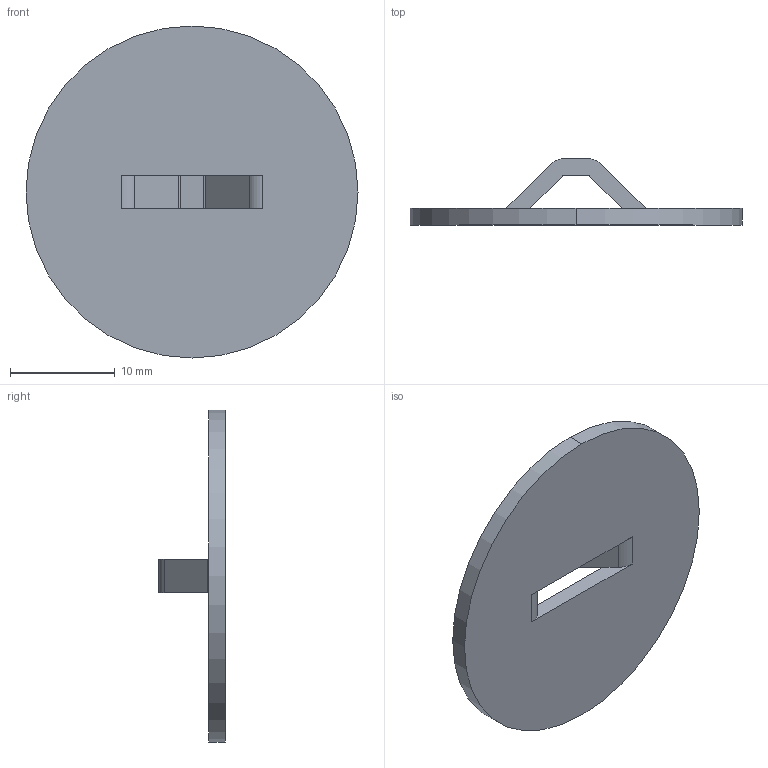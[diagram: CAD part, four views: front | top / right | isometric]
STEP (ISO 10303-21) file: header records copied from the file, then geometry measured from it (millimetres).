
FILE_DESCRIPTION (( 'STEP AP203' ), '1' );
FILE_NAME ('1052649-30 - BRIDGE LANCE SGL .125W X .188H X .063THK.STEP', '2024-11-18T17:19:18', ( '' ), ( '' ), 'SwSTEP 2.0', 'SolidWorks 2024', '' );
FILE_SCHEMA (( 'CONFIG_CONTROL_DESIGN' ));
Length unit declared in the file: inch
Products named in the file (1): 1052649-30 - BRIDGE LANCE SGL .125W X .188H X .063THK
Bounding box: 31.75 x 6.38 x 31.75 mm (x, y, z)
Volume: 1286.1 mm3; surface area: 1846.5 mm2
Topology: 1 solids, 1 shells, 22 faces, 62 edges, 40 vertices
Faces by surface type: plane 12, cylinder 10
Entity records: 801 total; most frequent: DIRECTION 128, CARTESIAN_POINT 125, ORIENTED_EDGE 124, EDGE_CURVE 62, AXIS2_PLACEMENT_3D 43, LINE 42, VECTOR 42, VERTEX_POINT 40
